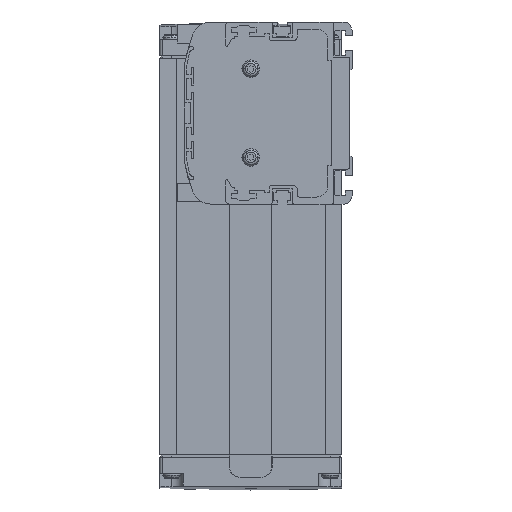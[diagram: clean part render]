
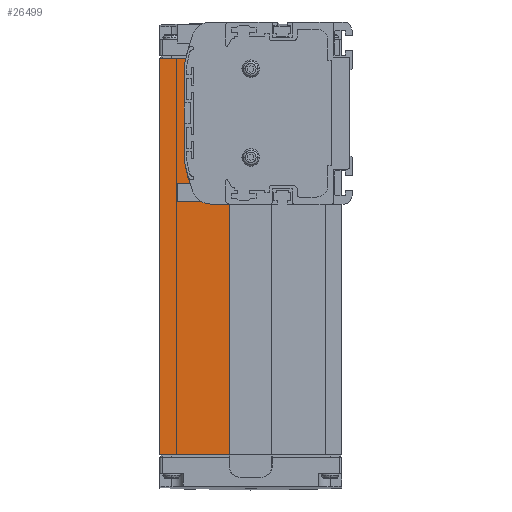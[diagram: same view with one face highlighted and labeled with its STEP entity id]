
A CAD part, left-side view. The second image highlights one B-rep face of the part: STEP entity #26499.
In plain terms, the highlighted planar face has unit normal (-1, 0, 0).
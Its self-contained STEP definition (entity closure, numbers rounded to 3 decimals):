
#3688=DIRECTION('',(0.,-1.,0.));
#3689=VECTOR('',#3688,8.155);
#3690=CARTESIAN_POINT('',(3.,60.755,-39.));
#3691=LINE('',#3690,#3689);
#3726=DIRECTION('',(0.,-1.,0.));
#3727=VECTOR('',#3726,29.9);
#3728=CARTESIAN_POINT('',(3.,82.5,-146.5));
#3729=LINE('',#3728,#3727);
#3730=DIRECTION('',(0.,1.,0.));
#3731=VECTOR('',#3730,11.203);
#3732=CARTESIAN_POINT('',(3.,71.297,23.5));
#3733=LINE('',#3732,#3731);
#3750=DIRECTION('',(0.,0.,1.));
#3751=VECTOR('',#3750,107.5);
#3752=CARTESIAN_POINT('',(3.,52.6,-146.5));
#3753=LINE('',#3752,#3751);
#3754=DIRECTION('',(0.,1.,0.));
#3755=VECTOR('',#3754,0.209);
#3756=CARTESIAN_POINT('',(3.,70.291,-27.5));
#3757=LINE('',#3756,#3755);
#3778=DIRECTION('',(0.,0.,1.));
#3779=VECTOR('',#3778,0.762);
#3780=CARTESIAN_POINT('',(3.,70.5,-27.5));
#3781=LINE('',#3780,#3779);
#9339=CARTESIAN_POINT('',(3.,-6.765,6.));
#9340=DIRECTION('',(1.,0.,0.));
#9341=DIRECTION('',(0.,0.984,0.177));
#9342=AXIS2_PLACEMENT_3D('',#9339,#9340,#9341);
#9344=CARTESIAN_POINT('',(3.,70.,19.823));
#9345=DIRECTION('',(1.,0.,0.));
#9346=DIRECTION('',(0.,1.,0.));
#9347=AXIS2_PLACEMENT_3D('',#9344,#9345,#9346);
#9353=DIRECTION('',(0.,0.,1.));
#9354=VECTOR('',#9353,39.645);
#9355=CARTESIAN_POINT('',(3.,72.,-19.823));
#9356=LINE('',#9355,#9354);
#9361=CARTESIAN_POINT('',(3.,70.,-19.823));
#9362=DIRECTION('',(-1.,0.,0.));
#9363=DIRECTION('',(0.,1.,0.));
#9364=AXIS2_PLACEMENT_3D('',#9361,#9362,#9363);
#9374=CARTESIAN_POINT('',(3.,-6.765,-6.));
#9375=DIRECTION('',(1.,0.,0.));
#9376=DIRECTION('',(0.,0.938,-0.347));
#9377=AXIS2_PLACEMENT_3D('',#9374,#9375,#9376);
#9379=CARTESIAN_POINT('',(3.,-6.765,-6.));
#9380=DIRECTION('',(1.,0.,0.));
#9381=DIRECTION('',(0.,0.966,-0.259));
#9382=AXIS2_PLACEMENT_3D('',#9379,#9380,#9381);
#9388=CARTESIAN_POINT('',(3.,60.755,-31.));
#9389=DIRECTION('',(1.,0.,0.));
#9390=DIRECTION('',(0.,0.,-1.));
#9391=AXIS2_PLACEMENT_3D('',#9388,#9389,#9390);
#11884=DIRECTION('',(0.,0.,1.));
#11885=VECTOR('',#11884,170.);
#11886=CARTESIAN_POINT('',(3.,82.5,-146.5));
#11887=LINE('',#11886,#11885);
#17306=CARTESIAN_POINT('',(3.,82.5,23.5));
#17307=VERTEX_POINT('',#17306);
#17352=CARTESIAN_POINT('',(3.,82.5,-146.5));
#17353=VERTEX_POINT('',#17352);
#17354=CARTESIAN_POINT('',(3.,52.6,-146.5));
#17355=VERTEX_POINT('',#17354);
#17384=CARTESIAN_POINT('',(3.,70.5,-27.5));
#17386=VERTEX_POINT('',#17384);
#21265=CARTESIAN_POINT('',(3.,60.755,-39.));
#21266=CARTESIAN_POINT('',(3.,52.6,-39.));
#21267=VERTEX_POINT('',#21265);
#21268=VERTEX_POINT('',#21266);
#21269=CARTESIAN_POINT('',(3.,71.297,23.5));
#21271=VERTEX_POINT('',#21269);
#21279=CARTESIAN_POINT('',(3.,70.5,-26.738));
#21280=VERTEX_POINT('',#21279);
#21283=CARTESIAN_POINT('',(3.,70.291,-27.5));
#21285=VERTEX_POINT('',#21283);
#21295=CARTESIAN_POINT('',(3.,72.,19.823));
#21296=CARTESIAN_POINT('',(3.,71.968,20.177));
#21297=VERTEX_POINT('',#21295);
#21298=VERTEX_POINT('',#21296);
#21311=CARTESIAN_POINT('',(3.,68.257,-33.778));
#21312=VERTEX_POINT('',#21311);
#21313=CARTESIAN_POINT('',(3.,71.968,-20.177));
#21314=VERTEX_POINT('',#21313);
#21315=CARTESIAN_POINT('',(3.,72.,-19.823));
#21316=VERTEX_POINT('',#21315);
#26465=CARTESIAN_POINT('',(3.,67.55,-61.5));
#26466=DIRECTION('',(1.,0.,0.));
#26467=DIRECTION('',(0.,1.,0.));
#26468=AXIS2_PLACEMENT_3D('',#26465,#26466,#26467);
#26469=PLANE('',#26468);
#26470=ORIENTED_EDGE('',*,*,#26433,.T.);
#26472=ORIENTED_EDGE('',*,*,#26471,.F.);
#26474=ORIENTED_EDGE('',*,*,#26473,.F.);
#26476=ORIENTED_EDGE('',*,*,#26475,.T.);
#26478=ORIENTED_EDGE('',*,*,#26477,.F.);
#26480=ORIENTED_EDGE('',*,*,#26479,.F.);
#26482=ORIENTED_EDGE('',*,*,#26481,.F.);
#26484=ORIENTED_EDGE('',*,*,#26483,.F.);
#26486=ORIENTED_EDGE('',*,*,#26485,.T.);
#26488=ORIENTED_EDGE('',*,*,#26487,.F.);
#26490=ORIENTED_EDGE('',*,*,#26489,.F.);
#26492=ORIENTED_EDGE('',*,*,#26491,.F.);
#26494=ORIENTED_EDGE('',*,*,#26493,.F.);
#26496=ORIENTED_EDGE('',*,*,#26495,.F.);
#26497=EDGE_LOOP('',(#26470,#26472,#26474,#26476,#26478,#26480,#26482,#26484,
#26486,#26488,#26490,#26492,#26494,#26496));
#26498=FACE_OUTER_BOUND('',#26497,.F.);
#26499=ADVANCED_FACE('',(#26498),#26469,.F.);
#9343=CIRCLE('',#9342,80.);
#9348=CIRCLE('',#9347,2.);
#9365=CIRCLE('',#9364,2.);
#9378=CIRCLE('',#9377,80.);
#9383=CIRCLE('',#9382,80.);
#9392=CIRCLE('',#9391,8.);
#26433=EDGE_CURVE('',#21267,#21268,#3691,.T.);
#26471=EDGE_CURVE('',#17355,#21268,#3753,.T.);
#26473=EDGE_CURVE('',#17353,#17355,#3729,.T.);
#26475=EDGE_CURVE('',#17353,#17307,#11887,.T.);
#26477=EDGE_CURVE('',#21271,#17307,#3733,.T.);
#26479=EDGE_CURVE('',#21298,#21271,#9343,.T.);
#26481=EDGE_CURVE('',#21297,#21298,#9348,.T.);
#26483=EDGE_CURVE('',#21316,#21297,#9356,.T.);
#26485=EDGE_CURVE('',#21316,#21314,#9365,.T.);
#26487=EDGE_CURVE('',#21280,#21314,#9383,.T.);
#26489=EDGE_CURVE('',#17386,#21280,#3781,.T.);
#26491=EDGE_CURVE('',#21285,#17386,#3757,.T.);
#26493=EDGE_CURVE('',#21312,#21285,#9378,.T.);
#26495=EDGE_CURVE('',#21267,#21312,#9392,.T.);
